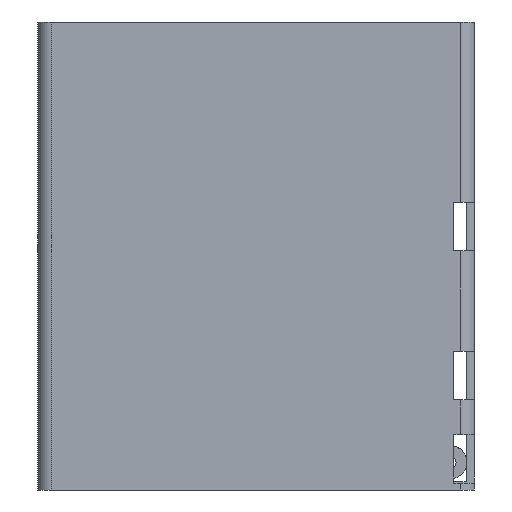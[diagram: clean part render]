
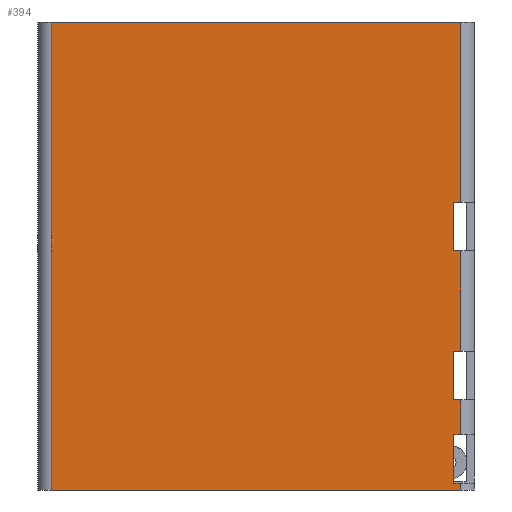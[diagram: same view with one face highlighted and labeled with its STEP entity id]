
A CAD part, front view. The second image highlights one B-rep face of the part: STEP entity #394.
In plain terms, the highlighted planar face has unit normal (0, -1, 0).
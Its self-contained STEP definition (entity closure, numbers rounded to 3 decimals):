
#63 = VERTEX_POINT('',#64);
#64 = CARTESIAN_POINT('',(-59.,-54.,341.));
#71 = EDGE_CURVE('',#63,#72,#74,.T.);
#72 = VERTEX_POINT('',#73);
#73 = CARTESIAN_POINT('',(59.,-54.,341.));
#74 = LINE('',#75,#76);
#75 = CARTESIAN_POINT('',(-63.,-54.,341.));
#76 = VECTOR('',#77,1.);
#77 = DIRECTION('',(1.,0.,0.));
#129 = VERTEX_POINT('',#130);
#130 = CARTESIAN_POINT('',(-59.,-54.,206.));
#137 = EDGE_CURVE('',#129,#63,#138,.T.);
#138 = LINE('',#139,#140);
#139 = CARTESIAN_POINT('',(-59.,-54.,206.));
#140 = VECTOR('',#141,1.);
#141 = DIRECTION('',(0.,0.,1.));
#316 = EDGE_CURVE('',#129,#317,#319,.T.);
#317 = VERTEX_POINT('',#318);
#318 = CARTESIAN_POINT('',(59.,-54.,206.));
#319 = LINE('',#320,#321);
#320 = CARTESIAN_POINT('',(-63.,-54.,206.));
#321 = VECTOR('',#322,1.);
#322 = DIRECTION('',(1.,0.,0.));
#394 = ADVANCED_FACE('',(#395),#502,.F.);
#395 = FACE_BOUND('',#396,.F.);
#396 = EDGE_LOOP('',(#397,#398,#399,#400,#408,#416,#424,#432,#440,#448,
    #456,#464,#472,#480,#488,#496));
#397 = ORIENTED_EDGE('',*,*,#316,.F.);
#398 = ORIENTED_EDGE('',*,*,#137,.T.);
#399 = ORIENTED_EDGE('',*,*,#71,.T.);
#400 = ORIENTED_EDGE('',*,*,#401,.F.);
#401 = EDGE_CURVE('',#402,#72,#404,.T.);
#402 = VERTEX_POINT('',#403);
#403 = CARTESIAN_POINT('',(59.,-54.,289.));
#404 = LINE('',#405,#406);
#405 = CARTESIAN_POINT('',(59.,-54.,206.));
#406 = VECTOR('',#407,1.);
#407 = DIRECTION('',(0.,0.,1.));
#408 = ORIENTED_EDGE('',*,*,#409,.F.);
#409 = EDGE_CURVE('',#410,#402,#412,.T.);
#410 = VERTEX_POINT('',#411);
#411 = CARTESIAN_POINT('',(57.,-54.,289.));
#412 = LINE('',#413,#414);
#413 = CARTESIAN_POINT('',(-3.,-54.,289.));
#414 = VECTOR('',#415,1.);
#415 = DIRECTION('',(1.,0.,0.));
#416 = ORIENTED_EDGE('',*,*,#417,.T.);
#417 = EDGE_CURVE('',#410,#418,#420,.T.);
#418 = VERTEX_POINT('',#419);
#419 = CARTESIAN_POINT('',(57.,-54.,275.));
#420 = LINE('',#421,#422);
#421 = CARTESIAN_POINT('',(57.,-54.,240.5));
#422 = VECTOR('',#423,1.);
#423 = DIRECTION('',(0.,0.,-1.));
#424 = ORIENTED_EDGE('',*,*,#425,.T.);
#425 = EDGE_CURVE('',#418,#426,#428,.T.);
#426 = VERTEX_POINT('',#427);
#427 = CARTESIAN_POINT('',(59.,-54.,275.));
#428 = LINE('',#429,#430);
#429 = CARTESIAN_POINT('',(-3.,-54.,275.));
#430 = VECTOR('',#431,1.);
#431 = DIRECTION('',(1.,0.,0.));
#432 = ORIENTED_EDGE('',*,*,#433,.F.);
#433 = EDGE_CURVE('',#434,#426,#436,.T.);
#434 = VERTEX_POINT('',#435);
#435 = CARTESIAN_POINT('',(59.,-54.,246.));
#436 = LINE('',#437,#438);
#437 = CARTESIAN_POINT('',(59.,-54.,206.));
#438 = VECTOR('',#439,1.);
#439 = DIRECTION('',(0.,0.,1.));
#440 = ORIENTED_EDGE('',*,*,#441,.F.);
#441 = EDGE_CURVE('',#442,#434,#444,.T.);
#442 = VERTEX_POINT('',#443);
#443 = CARTESIAN_POINT('',(57.,-54.,246.));
#444 = LINE('',#445,#446);
#445 = CARTESIAN_POINT('',(-3.,-54.,246.));
#446 = VECTOR('',#447,1.);
#447 = DIRECTION('',(1.,0.,0.));
#448 = ORIENTED_EDGE('',*,*,#449,.T.);
#449 = EDGE_CURVE('',#442,#450,#452,.T.);
#450 = VERTEX_POINT('',#451);
#451 = CARTESIAN_POINT('',(57.,-54.,232.));
#452 = LINE('',#453,#454);
#453 = CARTESIAN_POINT('',(57.,-54.,219.));
#454 = VECTOR('',#455,1.);
#455 = DIRECTION('',(0.,0.,-1.));
#456 = ORIENTED_EDGE('',*,*,#457,.T.);
#457 = EDGE_CURVE('',#450,#458,#460,.T.);
#458 = VERTEX_POINT('',#459);
#459 = CARTESIAN_POINT('',(59.,-54.,232.));
#460 = LINE('',#461,#462);
#461 = CARTESIAN_POINT('',(-3.,-54.,232.));
#462 = VECTOR('',#463,1.);
#463 = DIRECTION('',(1.,0.,0.));
#464 = ORIENTED_EDGE('',*,*,#465,.F.);
#465 = EDGE_CURVE('',#466,#458,#468,.T.);
#466 = VERTEX_POINT('',#467);
#467 = CARTESIAN_POINT('',(59.,-54.,222.));
#468 = LINE('',#469,#470);
#469 = CARTESIAN_POINT('',(59.,-54.,206.));
#470 = VECTOR('',#471,1.);
#471 = DIRECTION('',(0.,0.,1.));
#472 = ORIENTED_EDGE('',*,*,#473,.F.);
#473 = EDGE_CURVE('',#474,#466,#476,.T.);
#474 = VERTEX_POINT('',#475);
#475 = CARTESIAN_POINT('',(57.,-54.,222.));
#476 = LINE('',#477,#478);
#477 = CARTESIAN_POINT('',(-3.,-54.,222.));
#478 = VECTOR('',#479,1.);
#479 = DIRECTION('',(1.,0.,0.));
#480 = ORIENTED_EDGE('',*,*,#481,.T.);
#481 = EDGE_CURVE('',#474,#482,#484,.T.);
#482 = VERTEX_POINT('',#483);
#483 = CARTESIAN_POINT('',(57.,-54.,208.));
#484 = LINE('',#485,#486);
#485 = CARTESIAN_POINT('',(57.,-54.,207.));
#486 = VECTOR('',#487,1.);
#487 = DIRECTION('',(0.,0.,-1.));
#488 = ORIENTED_EDGE('',*,*,#489,.T.);
#489 = EDGE_CURVE('',#482,#490,#492,.T.);
#490 = VERTEX_POINT('',#491);
#491 = CARTESIAN_POINT('',(59.,-54.,208.));
#492 = LINE('',#493,#494);
#493 = CARTESIAN_POINT('',(-3.,-54.,208.));
#494 = VECTOR('',#495,1.);
#495 = DIRECTION('',(1.,0.,0.));
#496 = ORIENTED_EDGE('',*,*,#497,.F.);
#497 = EDGE_CURVE('',#317,#490,#498,.T.);
#498 = LINE('',#499,#500);
#499 = CARTESIAN_POINT('',(59.,-54.,206.));
#500 = VECTOR('',#501,1.);
#501 = DIRECTION('',(0.,0.,1.));
#502 = PLANE('',#503);
#503 = AXIS2_PLACEMENT_3D('',#504,#505,#506);
#504 = CARTESIAN_POINT('',(-63.,-54.,206.));
#505 = DIRECTION('',(0.,1.,0.));
#506 = DIRECTION('',(0.,0.,1.));
